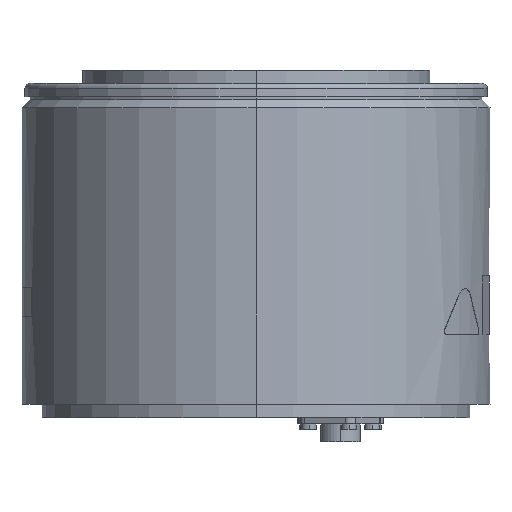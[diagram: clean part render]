
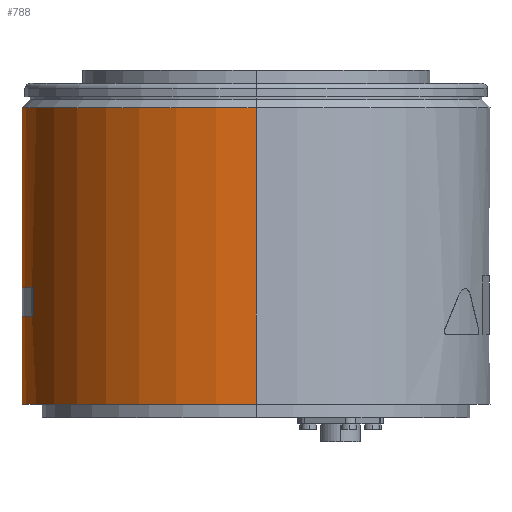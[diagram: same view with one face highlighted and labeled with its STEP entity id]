
A CAD part, left-side view. The second image highlights one B-rep face of the part: STEP entity #788.
In plain terms, the highlighted cylindrical face has radius 87.5 mm (diameter 175 mm), a partial arc.
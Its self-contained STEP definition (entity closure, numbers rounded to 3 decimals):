
#781 = VERTEX_POINT ( 'NONE', #2977 ) ;
#783 = VERTEX_POINT ( 'NONE', #2976 ) ;
#785 = EDGE_LOOP ( 'NONE', ( #816, #789, #794, #791 ) ) ;
#788 = ADVANCED_FACE ( 'NONE', ( #2924, #2966 ), #2958, .T. ) ;
#789 = ORIENTED_EDGE ( 'NONE', *, *, #793, .F. ) ;
#791 = ORIENTED_EDGE ( 'NONE', *, *, #818, .F. ) ;
#793 = EDGE_CURVE ( 'NONE', #781, #810, #3014, .T. ) ;
#794 = ORIENTED_EDGE ( 'NONE', *, *, #797, .F. ) ;
#797 = EDGE_CURVE ( 'NONE', #824, #781, #2964, .T. ) ;
#800 = VERTEX_POINT ( 'NONE', #2999 ) ;
#803 = VERTEX_POINT ( 'NONE', #2990 ) ;
#810 = VERTEX_POINT ( 'NONE', #3042 ) ;
#816 = ORIENTED_EDGE ( 'NONE', *, *, #828, .F. ) ;
#818 = EDGE_CURVE ( 'NONE', #783, #824, #3068, .T. ) ;
#819 = EDGE_CURVE ( 'NONE', #800, #803, #3033, .T. ) ;
#820 = EDGE_LOOP ( 'NONE', ( #832, #831, #825, #842 ) ) ;
#821 = VERTEX_POINT ( 'NONE', #3030 ) ;
#823 = EDGE_CURVE ( 'NONE', #803, #821, #3072, .T. ) ;
#824 = VERTEX_POINT ( 'NONE', #3055 ) ;
#825 = ORIENTED_EDGE ( 'NONE', *, *, #8625, .F. ) ;
#828 = EDGE_CURVE ( 'NONE', #810, #783, #3057, .T. ) ;
#831 = ORIENTED_EDGE ( 'NONE', *, *, #823, .T. ) ;
#832 = ORIENTED_EDGE ( 'NONE', *, *, #819, .T. ) ;
#841 = EDGE_CURVE ( 'NONE', #800, #843, #3088, .T. ) ;
#842 = ORIENTED_EDGE ( 'NONE', *, *, #841, .F. ) ;
#843 = VERTEX_POINT ( 'NONE', #3086 ) ;
#2924 = FACE_BOUND ( 'NONE', #785, .T. ) ;
#2956 = CARTESIAN_POINT ( 'NONE',  ( 0., 0., 38. ) ) ;
#2958 = CYLINDRICAL_SURFACE ( 'NONE', #2963, 87.5 ) ;
#2962 = CARTESIAN_POINT ( 'NONE',  ( 0., 0., 0. ) ) ;
#2963 = AXIS2_PLACEMENT_3D ( 'NONE', #2962, #2971, #2970 ) ;
#2964 = LINE ( 'NONE', #3010, #3001 ) ;
#2966 = FACE_OUTER_BOUND ( 'NONE', #820, .T. ) ;
#2970 = DIRECTION ( 'NONE',  ( -1., 0., 0. ) ) ;
#2971 = DIRECTION ( 'NONE',  ( 0., 0., -1. ) ) ;
#2976 = CARTESIAN_POINT ( 'NONE',  ( -25., 83.853, 48.5 ) ) ;
#2977 = CARTESIAN_POINT ( 'NONE',  ( 25., 83.853, 38. ) ) ;
#2990 = CARTESIAN_POINT ( 'NONE',  ( 87.5, 0., 116. ) ) ;
#2999 = CARTESIAN_POINT ( 'NONE',  ( -87.5, 0., 116. ) ) ;
#3001 = VECTOR ( 'NONE', #3009, 1000. ) ;
#3009 = DIRECTION ( 'NONE',  ( 0., 0., -1. ) ) ;
#3010 = CARTESIAN_POINT ( 'NONE',  ( 25., 83.853, 0. ) ) ;
#3011 = DIRECTION ( 'NONE',  ( -1., 0., 0. ) ) ;
#3012 = DIRECTION ( 'NONE',  ( 0., 0., 1. ) ) ;
#3013 = AXIS2_PLACEMENT_3D ( 'NONE', #2956, #3012, #3011 ) ;
#3014 = CIRCLE ( 'NONE', #3013, 87.5 ) ;
#3030 = CARTESIAN_POINT ( 'NONE',  ( 87.5, 0., 5. ) ) ;
#3033 = CIRCLE ( 'NONE', #3061, 87.5 ) ;
#3042 = CARTESIAN_POINT ( 'NONE',  ( -25., 83.853, 38. ) ) ;
#3049 = DIRECTION ( 'NONE',  ( 0., 0., 1. ) ) ;
#3050 = VECTOR ( 'NONE', #3049, 1000. ) ;
#3054 = VECTOR ( 'NONE', #3066, 1000. ) ;
#3055 = CARTESIAN_POINT ( 'NONE',  ( 25., 83.853, 48.5 ) ) ;
#3056 = CARTESIAN_POINT ( 'NONE',  ( -25., 83.853, 0. ) ) ;
#3057 = LINE ( 'NONE', #3056, #3050 ) ;
#3058 = DIRECTION ( 'NONE',  ( -1., 0., 0. ) ) ;
#3059 = DIRECTION ( 'NONE',  ( 0., 0., -1. ) ) ;
#3060 = CARTESIAN_POINT ( 'NONE',  ( 0., 0., 116. ) ) ;
#3061 = AXIS2_PLACEMENT_3D ( 'NONE', #3060, #3059, #3058 ) ;
#3062 = DIRECTION ( 'NONE',  ( 1., 0., 0. ) ) ;
#3063 = DIRECTION ( 'NONE',  ( 0., 0., -1. ) ) ;
#3064 = CARTESIAN_POINT ( 'NONE',  ( 0., 0., 48.5 ) ) ;
#3065 = AXIS2_PLACEMENT_3D ( 'NONE', #3064, #3063, #3062 ) ;
#3066 = DIRECTION ( 'NONE',  ( 0., 0., -1. ) ) ;
#3067 = CARTESIAN_POINT ( 'NONE',  ( 87.5, 0., 0. ) ) ;
#3068 = CIRCLE ( 'NONE', #3065, 87.5 ) ;
#3072 = LINE ( 'NONE', #3067, #3054 ) ;
#3084 = DIRECTION ( 'NONE',  ( 0., 0., -1. ) ) ;
#3085 = VECTOR ( 'NONE', #3084, 1000. ) ;
#3086 = CARTESIAN_POINT ( 'NONE',  ( -87.5, 0., 5. ) ) ;
#3088 = LINE ( 'NONE', #3089, #3085 ) ;
#3089 = CARTESIAN_POINT ( 'NONE',  ( -87.5, 0., 0. ) ) ;
#6602 = AXIS2_PLACEMENT_3D ( 'NONE', #6619, #6653, #6652 ) ;
#6609 = CIRCLE ( 'NONE', #6602, 87.5 ) ;
#6619 = CARTESIAN_POINT ( 'NONE',  ( 0., 0., 5. ) ) ;
#6652 = DIRECTION ( 'NONE',  ( -1., 0., 0. ) ) ;
#6653 = DIRECTION ( 'NONE',  ( 0., 0., -1. ) ) ;
#8625 = EDGE_CURVE ( 'NONE', #843, #821, #6609, .T. ) ;
